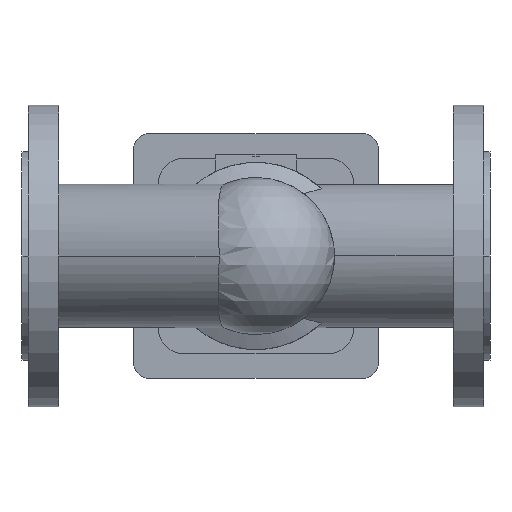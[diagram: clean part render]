
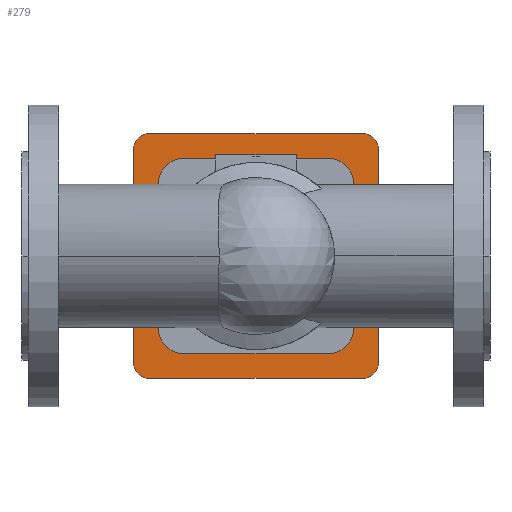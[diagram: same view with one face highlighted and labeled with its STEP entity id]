
A CAD part, front view. The second image highlights one B-rep face of the part: STEP entity #279.
In plain terms, the highlighted planar face has unit normal (0, -1, 0).
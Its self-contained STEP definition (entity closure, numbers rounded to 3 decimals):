
#279 = ADVANCED_FACE( '', ( #667, #668 ), #669, .F. );
#667 = FACE_OUTER_BOUND( '', #1081, .T. );
#668 = FACE_BOUND( '', #1082, .T. );
#669 = PLANE( '', #1083 );
#1081 = EDGE_LOOP( '', ( #2372, #2373, #2374, #2375, #2376, #2377, #2378, #2379 ) );
#1082 = EDGE_LOOP( '', ( #2380, #2381 ) );
#1083 = AXIS2_PLACEMENT_3D( '', #2382, #2383, #2384 );
#2372 = ORIENTED_EDGE( '', *, *, #2949, .F. );
#2373 = ORIENTED_EDGE( '', *, *, #2950, .F. );
#2374 = ORIENTED_EDGE( '', *, *, #2951, .F. );
#2375 = ORIENTED_EDGE( '', *, *, #2952, .F. );
#2376 = ORIENTED_EDGE( '', *, *, #2953, .F. );
#2377 = ORIENTED_EDGE( '', *, *, #2954, .F. );
#2378 = ORIENTED_EDGE( '', *, *, #2955, .F. );
#2379 = ORIENTED_EDGE( '', *, *, #2956, .F. );
#2380 = ORIENTED_EDGE( '', *, *, #2864, .F. );
#2381 = ORIENTED_EDGE( '', *, *, #2957, .F. );
#2382 = CARTESIAN_POINT( '', ( 155., 429.5, 0. ) );
#2383 = DIRECTION( '', ( 0., 1., 0. ) );
#2384 = DIRECTION( '', ( 0., 0., 1. ) );
#2864 = EDGE_CURVE( '', #3519, #3522, #3523, .T. );
#2949 = EDGE_CURVE( '', #3666, #3667, #3668, .T. );
#2950 = EDGE_CURVE( '', #3669, #3666, #3670, .T. );
#2951 = EDGE_CURVE( '', #3671, #3669, #3672, .T. );
#2952 = EDGE_CURVE( '', #3673, #3671, #3674, .T. );
#2953 = EDGE_CURVE( '', #3675, #3673, #3676, .T. );
#2954 = EDGE_CURVE( '', #3677, #3675, #3678, .T. );
#2955 = EDGE_CURVE( '', #3679, #3677, #3680, .T. );
#2956 = EDGE_CURVE( '', #3667, #3679, #3681, .T. );
#2957 = EDGE_CURVE( '', #3522, #3519, #3682, .T. );
#3519 = VERTEX_POINT( '', #4928 );
#3522 = VERTEX_POINT( '', #4932 );
#3523 = CIRCLE( '', #4933, 40. );
#3666 = VERTEX_POINT( '', #5131 );
#3667 = VERTEX_POINT( '', #5132 );
#3668 = CIRCLE( '', #5133, 10. );
#3669 = VERTEX_POINT( '', #5134 );
#3670 = LINE( '', #5135, #5136 );
#3671 = VERTEX_POINT( '', #5137 );
#3672 = CIRCLE( '', #5138, 10. );
#3673 = VERTEX_POINT( '', #5139 );
#3674 = LINE( '', #5140, #5141 );
#3675 = VERTEX_POINT( '', #5142 );
#3676 = CIRCLE( '', #5143, 10. );
#3677 = VERTEX_POINT( '', #5144 );
#3678 = LINE( '', #5145, #5146 );
#3679 = VERTEX_POINT( '', #5147 );
#3680 = CIRCLE( '', #5148, 10. );
#3681 = LINE( '', #5149, #5150 );
#3682 = CIRCLE( '', #5151, 40. );
#4928 = CARTESIAN_POINT( '', ( 115., 429.5, 0. ) );
#4932 = CARTESIAN_POINT( '', ( 195., 429.5, 0. ) );
#4933 = AXIS2_PLACEMENT_3D( '', #5818, #5819, #5820 );
#5131 = CARTESIAN_POINT( '', ( 74., 429.5, 71. ) );
#5132 = CARTESIAN_POINT( '', ( 84., 429.5, 81. ) );
#5133 = AXIS2_PLACEMENT_3D( '', #5963, #5964, #5965 );
#5134 = CARTESIAN_POINT( '', ( 74., 429.5, -71. ) );
#5135 = CARTESIAN_POINT( '', ( 74., 429.5, -71. ) );
#5136 = VECTOR( '', #5966, 1. );
#5137 = CARTESIAN_POINT( '', ( 84., 429.5, -81. ) );
#5138 = AXIS2_PLACEMENT_3D( '', #5967, #5968, #5969 );
#5139 = CARTESIAN_POINT( '', ( 226., 429.5, -81. ) );
#5140 = CARTESIAN_POINT( '', ( 226., 429.5, -81. ) );
#5141 = VECTOR( '', #5970, 1. );
#5142 = CARTESIAN_POINT( '', ( 236., 429.5, -71. ) );
#5143 = AXIS2_PLACEMENT_3D( '', #5971, #5972, #5973 );
#5144 = CARTESIAN_POINT( '', ( 236., 429.5, 71. ) );
#5145 = CARTESIAN_POINT( '', ( 236., 429.5, 71. ) );
#5146 = VECTOR( '', #5974, 1. );
#5147 = CARTESIAN_POINT( '', ( 226., 429.5, 81. ) );
#5148 = AXIS2_PLACEMENT_3D( '', #5975, #5976, #5977 );
#5149 = CARTESIAN_POINT( '', ( 84., 429.5, 81. ) );
#5150 = VECTOR( '', #5978, 1. );
#5151 = AXIS2_PLACEMENT_3D( '', #5979, #5980, #5981 );
#5818 = CARTESIAN_POINT( '', ( 155., 429.5, 0. ) );
#5819 = DIRECTION( '', ( 0., -1., 0. ) );
#5820 = DIRECTION( '', ( -1., 0., 0. ) );
#5963 = CARTESIAN_POINT( '', ( 84., 429.5, 71. ) );
#5964 = DIRECTION( '', ( 0., 1., 0. ) );
#5965 = DIRECTION( '', ( -1., 0., 0. ) );
#5966 = DIRECTION( '', ( 0., 0., 1. ) );
#5967 = CARTESIAN_POINT( '', ( 84., 429.5, -71. ) );
#5968 = DIRECTION( '', ( 0., 1., 0. ) );
#5969 = DIRECTION( '', ( 0., 0., -1. ) );
#5970 = DIRECTION( '', ( -1., 0., 0. ) );
#5971 = CARTESIAN_POINT( '', ( 226., 429.5, -71. ) );
#5972 = DIRECTION( '', ( 0., 1., 0. ) );
#5973 = DIRECTION( '', ( 1., 0., 0. ) );
#5974 = DIRECTION( '', ( 0., 0., -1. ) );
#5975 = CARTESIAN_POINT( '', ( 226., 429.5, 71. ) );
#5976 = DIRECTION( '', ( 0., 1., 0. ) );
#5977 = DIRECTION( '', ( 0., 0., 1. ) );
#5978 = DIRECTION( '', ( 1., 0., 0. ) );
#5979 = CARTESIAN_POINT( '', ( 155., 429.5, 0. ) );
#5980 = DIRECTION( '', ( 0., -1., 0. ) );
#5981 = DIRECTION( '', ( -1., 0., 0. ) );
